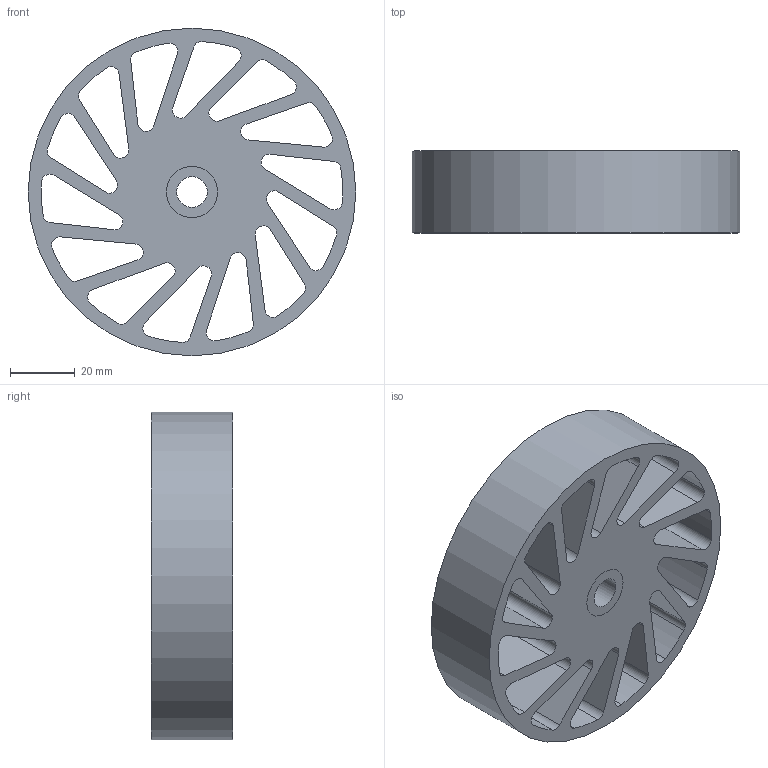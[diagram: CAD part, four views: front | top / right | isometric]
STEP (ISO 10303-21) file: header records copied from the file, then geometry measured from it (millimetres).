
FILE_DESCRIPTION(/* description */ (''),/* implementation_level */ '2;1');
FILE_NAME(/* name */ 'C:\Users\Owner\Desktop\Meridian Stuff\Oilite\NCWOB-340-XXX.stp',/* time_stamp */ '2023-05-22T16:55:36-05:00',/* author */ ('ASG'),/* organization */ ('Meridian Laboratory '),/* preprocessor_version */ 'ST-DEVELOPER v19',/* originating_system */ 'Autodesk Inventor 2023',/* authorisation */ '');
FILE_SCHEMA (('AUTOMOTIVE_DESIGN { 1 0 10303 214 3 1 1 }'));
Length unit declared in the file: inch
Products named in the file (1): NCWOB-340-XXX
Bounding box: 101.6 x 25.4 x 101.6 mm (x, y, z)
Volume: 113647.4 mm3; surface area: 44952.6 mm2
Topology: 2 solids, 2 shells, 92 faces, 264 edges, 176 vertices
Faces by surface type: cylinder 60, plane 32
Full cylindrical faces by diameter (mm): 9.55 x1, 15.875 x2, 101.6 x1
Entity records: 3285 total; most frequent: DIRECTION 570, CARTESIAN_POINT 533, ORIENTED_EDGE 528, EDGE_CURVE 264, AXIS2_PLACEMENT_3D 213, VERTEX_POINT 176, LINE 144, VECTOR 144
